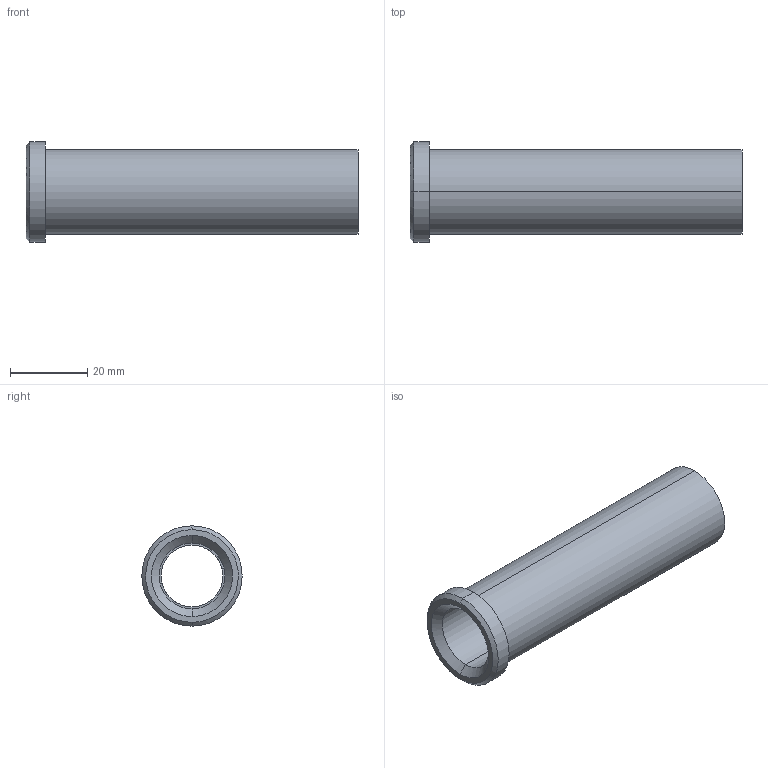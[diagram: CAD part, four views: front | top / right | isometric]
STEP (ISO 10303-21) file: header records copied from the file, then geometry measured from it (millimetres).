
FILE_DESCRIPTION(('CATIA V5 STEP Exchange'),'2;1');
FILE_NAME('C:\Users\Utente\Desktop\IO LAVORO\3D X SITO CF\X SITO\PLASTICA\353\353-16X86.stp','2021-05-04T18:14:39+00:00',('none'),('none'),'CATIA Version 5 Release 20 GA (IN-10)','CATIA V5 STEP AP203','none');
FILE_SCHEMA(('CONFIG_CONTROL_DESIGN'));
Length unit declared in the file: millimetre
Products named in the file (1): 353-16X86
Bounding box: 86 x 26 x 26 mm (x, y, z)
Volume: 14588.4 mm3; surface area: 11031.3 mm2
Topology: 1 solids, 1 shells, 18 faces, 58 edges, 44 vertices
Faces by surface type: cylinder 8, plane 4, cone 4, torus 2
Entity records: 840 total; most frequent: CARTESIAN_POINT 289, ORIENTED_EDGE 116, DIRECTION 82, EDGE_CURVE 58, AXIS2_PLACEMENT_3D 53, VERTEX_POINT 44, CIRCLE 34, EDGE_LOOP 22
